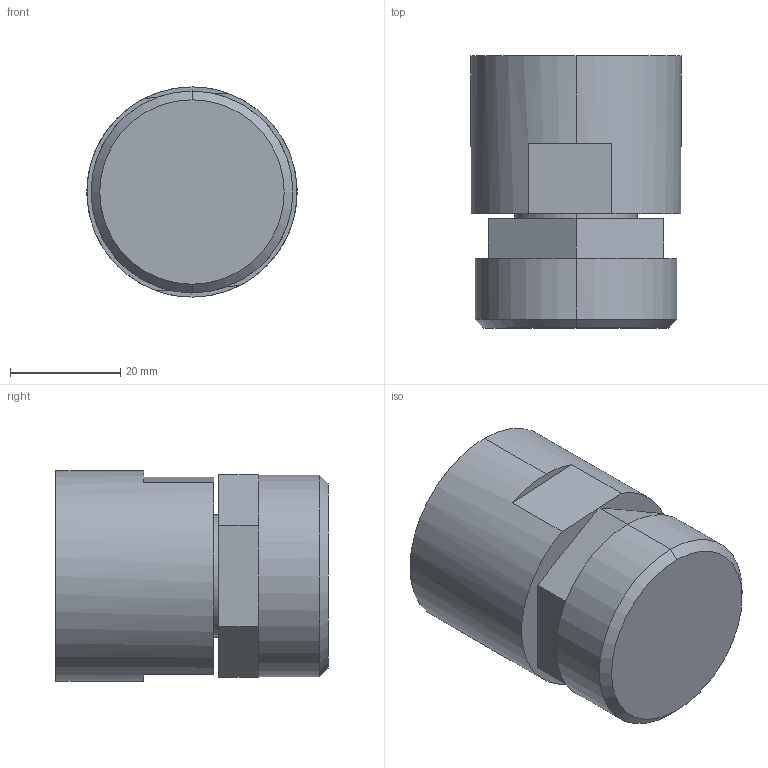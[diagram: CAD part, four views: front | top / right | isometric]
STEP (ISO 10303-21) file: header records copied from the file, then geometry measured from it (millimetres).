
FILE_DESCRIPTION (( 'STEP AP214' ), '1' );
FILE_NAME ('12-fnpt-with-top-mount-adapter.STEP', '2012-11-27T22:47:45', ( '' ), ( '' ), 'SwSTEP 2.0', 'SolidWorks 2012', '' );
FILE_SCHEMA (( 'AUTOMOTIVE_DESIGN' ));
Length unit declared in the file: inch
Products named in the file (1): 12-fnpt-with-top-mount-adapter
Bounding box: 38.1 x 49.33 x 38.1 mm (x, y, z)
Volume: 43811.7 mm3; surface area: 11472.4 mm2
Topology: 2 solids, 2 shells, 39 faces, 84 edges, 52 vertices
Faces by surface type: plane 29, cylinder 8, cone 2
Entity records: 1360 total; most frequent: CARTESIAN_POINT 394, DIRECTION 196, ORIENTED_EDGE 168, EDGE_CURVE 84, AXIS2_PLACEMENT_3D 74, VERTEX_POINT 52, LINE 48, VECTOR 48
